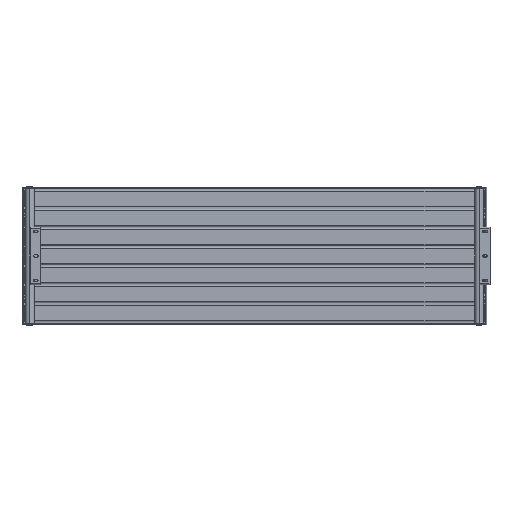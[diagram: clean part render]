
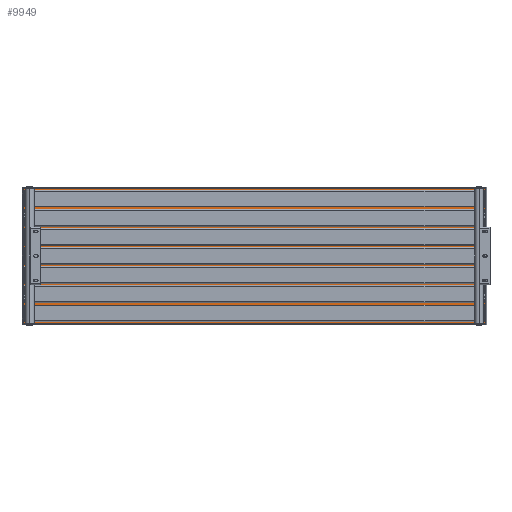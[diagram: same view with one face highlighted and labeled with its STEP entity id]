
A CAD part, left-side view. The second image highlights one B-rep face of the part: STEP entity #9949.
In plain terms, the highlighted planar face has unit normal (-1, 0, 0) as drawn and (0, 0, -1) by its records, which use the part's own axes.
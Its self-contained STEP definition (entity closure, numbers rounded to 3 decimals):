
#146 = VERTEX_POINT ( 'NONE', #2903 ) ;
#650 = DIRECTION ( 'NONE',  ( -1., 0., 0. ) ) ;
#1212 = CARTESIAN_POINT ( 'NONE',  ( -267.11, 0., 13. ) ) ;
#1595 = CARTESIAN_POINT ( 'NONE',  ( 0., -907.11, 13. ) ) ;
#2079 = CARTESIAN_POINT ( 'NONE',  ( 267.11, -907.11, 13. ) ) ;
#2480 = VECTOR ( 'NONE', #17105, 1000. ) ;
#2903 = CARTESIAN_POINT ( 'NONE',  ( -267.11, -907.11, 13. ) ) ;
#3275 = AXIS2_PLACEMENT_3D ( 'NONE', #11733, #6250, #650 ) ;
#6250 = DIRECTION ( 'NONE',  ( 0., 0., -1. ) ) ;
#7689 = FACE_OUTER_BOUND ( 'NONE', #21456, .T. ) ;
#8286 = EDGE_CURVE ( 'NONE', #19358, #9544, #18533, .T. ) ;
#8712 = CARTESIAN_POINT ( 'NONE',  ( -267.11, 907.11, 13. ) ) ;
#9482 = ORIENTED_EDGE ( 'NONE', *, *, #15862, .F. ) ;
#9544 = VERTEX_POINT ( 'NONE', #8712 ) ;
#9821 = PLANE ( 'NONE',  #3275 ) ;
#9949 = ADVANCED_FACE ( 'NONE', ( #7689 ), #9821, .T. ) ;
#10044 = DIRECTION ( 'NONE',  ( 0., -1., 0. ) ) ;
#10106 = EDGE_CURVE ( 'NONE', #146, #21991, #12905, .T. ) ;
#11247 = DIRECTION ( 'NONE',  ( 0., 1., 0. ) ) ;
#11733 = CARTESIAN_POINT ( 'NONE',  ( 0., 0., 13. ) ) ;
#11953 = LINE ( 'NONE', #1212, #16142 ) ;
#12905 = LINE ( 'NONE', #1595, #19663 ) ;
#13156 = LINE ( 'NONE', #22006, #15780 ) ;
#13952 = ORIENTED_EDGE ( 'NONE', *, *, #22847, .F. ) ;
#14235 = DIRECTION ( 'NONE',  ( 1., 0., 0. ) ) ;
#15077 = CARTESIAN_POINT ( 'NONE',  ( 0., 907.11, 13. ) ) ;
#15780 = VECTOR ( 'NONE', #11247, 1000. ) ;
#15862 = EDGE_CURVE ( 'NONE', #21991, #19358, #13156, .T. ) ;
#16142 = VECTOR ( 'NONE', #10044, 1000. ) ;
#17105 = DIRECTION ( 'NONE',  ( -1., 0., 0. ) ) ;
#18533 = LINE ( 'NONE', #15077, #2480 ) ;
#19358 = VERTEX_POINT ( 'NONE', #22414 ) ;
#19663 = VECTOR ( 'NONE', #14235, 1000. ) ;
#21456 = EDGE_LOOP ( 'NONE', ( #13952, #22508, #9482, #23359 ) ) ;
#21991 = VERTEX_POINT ( 'NONE', #2079 ) ;
#22006 = CARTESIAN_POINT ( 'NONE',  ( 267.11, 0., 13. ) ) ;
#22414 = CARTESIAN_POINT ( 'NONE',  ( 267.11, 907.11, 13. ) ) ;
#22508 = ORIENTED_EDGE ( 'NONE', *, *, #8286, .F. ) ;
#22847 = EDGE_CURVE ( 'NONE', #9544, #146, #11953, .T. ) ;
#23359 = ORIENTED_EDGE ( 'NONE', *, *, #10106, .F. ) ;
